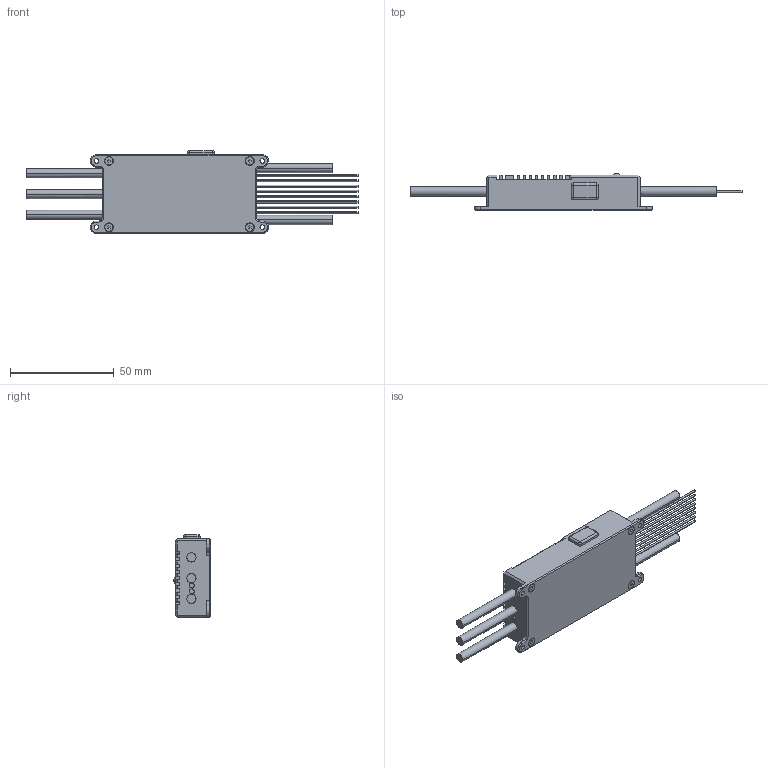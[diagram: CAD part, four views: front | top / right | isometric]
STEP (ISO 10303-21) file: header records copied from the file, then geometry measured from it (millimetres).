
FILE_DESCRIPTION((''),'2;1');
FILE_NAME('9359736_SW0001','2022-11-25T08:46:10',('mmagzawo'),(''),'CREO PARAMETRIC BY PTC INC, 2020342','CREO PARAMETRIC BY PTC INC, 2020342','');
FILE_SCHEMA(('CONFIG_CONTROL_DESIGN','SHAPE_APPEARANCE_LAYERS_GROUPS'));
Length unit declared in the file: millimetre
Products named in the file (1): 9359736_SW0001
Bounding box: 160.2 x 17.8 x 40 mm (x, y, z)
Volume: 48957.8 mm3; surface area: 15553.1 mm2
Topology: 1 solids, 1 shells, 1099 faces, 2627 edges, 1715 vertices
Faces by surface type: plane 927, cylinder 124, cone 24, extrusion 10, torus 8, sphere 4, revolution 2
Entity records: 50428 total; most frequent: CARTESIAN_POINT 5540, ORIENTED_EDGE 5250, DIRECTION 5103, PRESENTATION_STYLE_ASSIGNMENT 3692, STYLED_ITEM 2662, CURVE_STYLE 2637, EDGE_CURVE 2625, VECTOR 2319
